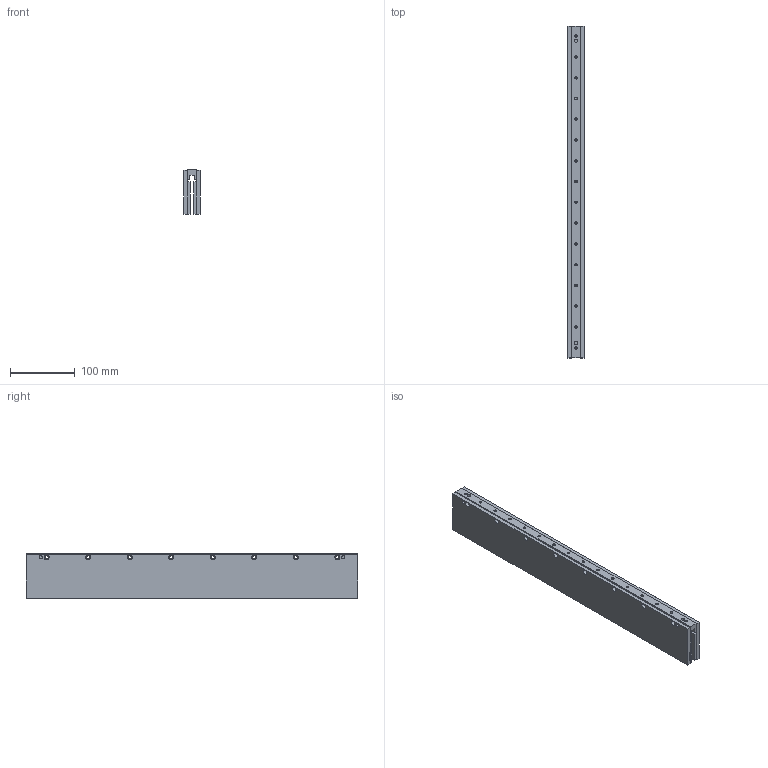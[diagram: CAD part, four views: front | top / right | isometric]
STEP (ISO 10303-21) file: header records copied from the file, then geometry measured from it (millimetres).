
FILE_DESCRIPTION((''),'2;1');
FILE_NAME('MW050L-0512','2007-01-14T',('saurabh.singhal'),(''),'PRO/ENGINEER BY PARAMETRIC TECHNOLOGY CORPORATION, 2005450','PRO/ENGINEER BY PARAMETRIC TECHNOLOGY CORPORATION, 2005450','');
FILE_SCHEMA(('CONFIG_CONTROL_DESIGN'));
Length unit declared in the file: millimetre
Products named in the file (1): MW050L-0512
Bounding box: 25.4 x 511.3 x 69 mm (x, y, z)
Volume: 681166.8 mm3; surface area: 176808.4 mm2
Topology: 1 solids, 17 shells, 238 faces, 581 edges, 371 vertices
Faces by surface type: cylinder 124, plane 82, cone 32
Entity records: 6924 total; most frequent: DIRECTION 1307, CARTESIAN_POINT 1159, ORIENTED_EDGE 1034, EDGE_CURVE 549, AXIS2_PLACEMENT_3D 519, VERTEX_POINT 371, EDGE_LOOP 312, CIRCLE 280
